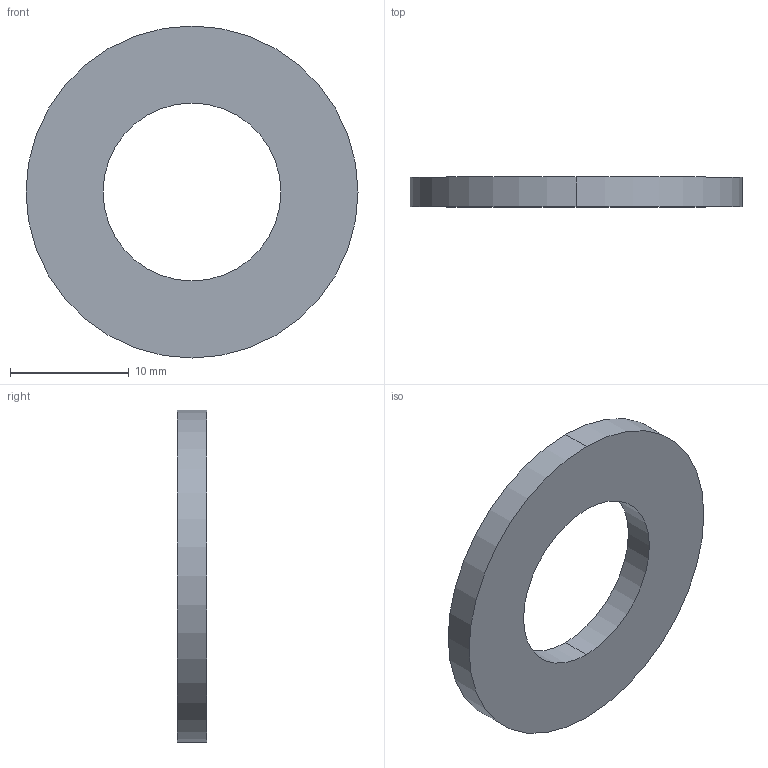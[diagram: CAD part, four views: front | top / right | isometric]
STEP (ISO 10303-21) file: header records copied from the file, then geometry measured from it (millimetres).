
FILE_DESCRIPTION (( 'STEP AP203' ), '1' );
FILE_NAME ('P0330.140-ZP.step', '2018-07-08T17:19:52', ( '' ), ( '' ), 'SwSTEP 2.0', 'SolidWorks 2017', '' );
FILE_SCHEMA (( 'CONFIG_CONTROL_DESIGN' ));
Length unit declared in the file: millimetre
Products named in the file (1): P0330.140-ZP
Bounding box: 28 x 2.5 x 28 mm (x, y, z)
Volume: 1097.6 mm3; surface area: 1215.8 mm2
Topology: 1 solids, 1 shells, 6 faces, 12 edges, 8 vertices
Faces by surface type: cylinder 4, plane 2
Entity records: 245 total; most frequent: DIRECTION 34, CARTESIAN_POINT 27, ORIENTED_EDGE 24, AXIS2_PLACEMENT_3D 15, EDGE_CURVE 12, PERSON_AND_ORGANIZATION 8, CIRCLE 8, EDGE_LOOP 8
